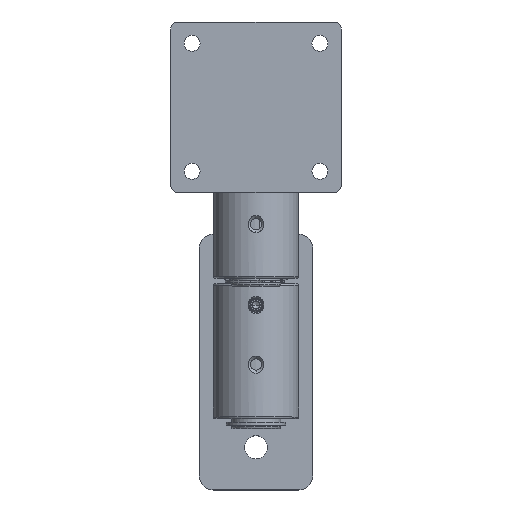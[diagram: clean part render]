
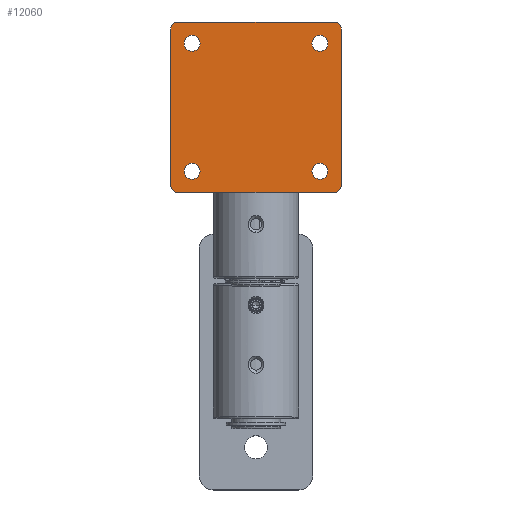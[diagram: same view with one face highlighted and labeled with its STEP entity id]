
A CAD part, top view. The second image highlights one B-rep face of the part: STEP entity #12060.
In plain terms, the highlighted planar face has unit normal (0, 0, 1) as drawn and (0, 0, -1) by its records, which use the part's own axes.
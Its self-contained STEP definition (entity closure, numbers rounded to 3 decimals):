
#248 = AXIS2_PLACEMENT_3D ( 'NONE', #10722, #5095, #9851 ) ;
#282 = CARTESIAN_POINT ( 'NONE',  ( 32.147, 28.575, -6.35 ) ) ;
#495 = VECTOR ( 'NONE', #11481, 1000. ) ;
#535 = CARTESIAN_POINT ( 'NONE',  ( 25.003, -28.575, -6.35 ) ) ;
#567 = CIRCLE ( 'NONE', #9783, 3.572 ) ;
#675 = CARTESIAN_POINT ( 'NONE',  ( 34.925, 38.1, -6.35 ) ) ;
#695 = AXIS2_PLACEMENT_3D ( 'NONE', #10409, #1809, #5640 ) ;
#785 = VERTEX_POINT ( 'NONE', #282 ) ;
#1027 = VERTEX_POINT ( 'NONE', #8293 ) ;
#1029 = AXIS2_PLACEMENT_3D ( 'NONE', #11527, #9528, #3945 ) ;
#1124 = DIRECTION ( 'NONE',  ( 1., 0., 0. ) ) ;
#1181 = CARTESIAN_POINT ( 'NONE',  ( -38.1, 38.1, -6.35 ) ) ;
#1208 = CARTESIAN_POINT ( 'NONE',  ( -34.925, 38.1, -6.35 ) ) ;
#1222 = DIRECTION ( 'NONE',  ( -1., 0., 0. ) ) ;
#1325 = PLANE ( 'NONE',  #248 ) ;
#1459 = VERTEX_POINT ( 'NONE', #10289 ) ;
#1620 = EDGE_CURVE ( 'NONE', #3955, #9064, #2231, .T. ) ;
#1764 = EDGE_CURVE ( 'NONE', #6491, #5849, #11735, .T. ) ;
#1809 = DIRECTION ( 'NONE',  ( 0., 0., 1. ) ) ;
#1867 = EDGE_LOOP ( 'NONE', ( #6929, #6290 ) ) ;
#1919 = LINE ( 'NONE', #1181, #11890 ) ;
#2120 = CARTESIAN_POINT ( 'NONE',  ( -38.1, -34.925, -6.35 ) ) ;
#2202 = CARTESIAN_POINT ( 'NONE',  ( 28.575, 28.575, -6.35 ) ) ;
#2231 = CIRCLE ( 'NONE', #1029, 3.572 ) ;
#2292 = ORIENTED_EDGE ( 'NONE', *, *, #6668, .F. ) ;
#2579 = DIRECTION ( 'NONE',  ( 0., 0., 1. ) ) ;
#2633 = CIRCLE ( 'NONE', #6853, 3.572 ) ;
#2678 = CIRCLE ( 'NONE', #9705, 3.175 ) ;
#2838 = AXIS2_PLACEMENT_3D ( 'NONE', #12188, #2579, #9235 ) ;
#3026 = CARTESIAN_POINT ( 'NONE',  ( -25.003, 28.575, -6.35 ) ) ;
#3034 = DIRECTION ( 'NONE',  ( 0., 0., -1. ) ) ;
#3184 = CARTESIAN_POINT ( 'NONE',  ( 32.147, -28.575, -6.35 ) ) ;
#3705 = EDGE_CURVE ( 'NONE', #785, #8225, #567, .T. ) ;
#3787 = DIRECTION ( 'NONE',  ( 1., 0., 0. ) ) ;
#3828 = CARTESIAN_POINT ( 'NONE',  ( -38.1, -38.1, -6.35 ) ) ;
#3843 = EDGE_CURVE ( 'NONE', #9064, #3955, #8634, .T. ) ;
#3937 = VERTEX_POINT ( 'NONE', #9181 ) ;
#3945 = DIRECTION ( 'NONE',  ( 1., 0., 0. ) ) ;
#3955 = VERTEX_POINT ( 'NONE', #3026 ) ;
#4058 = VECTOR ( 'NONE', #4432, 1000. ) ;
#4157 = DIRECTION ( 'NONE',  ( 0., 0., 1. ) ) ;
#4279 = DIRECTION ( 'NONE',  ( 0., 0., -1. ) ) ;
#4381 = LINE ( 'NONE', #9392, #4058 ) ;
#4432 = DIRECTION ( 'NONE',  ( 1., 0., 0. ) ) ;
#4602 = ORIENTED_EDGE ( 'NONE', *, *, #6920, .T. ) ;
#4666 = AXIS2_PLACEMENT_3D ( 'NONE', #6680, #7505, #3787 ) ;
#4699 = VERTEX_POINT ( 'NONE', #675 ) ;
#4709 = EDGE_CURVE ( 'NONE', #1459, #1027, #5554, .T. ) ;
#4734 = CARTESIAN_POINT ( 'NONE',  ( -34.925, -38.1, -6.35 ) ) ;
#4741 = DIRECTION ( 'NONE',  ( 0., 1., 0. ) ) ;
#4884 = ORIENTED_EDGE ( 'NONE', *, *, #9901, .T. ) ;
#4987 = CARTESIAN_POINT ( 'NONE',  ( -32.147, 28.575, -6.35 ) ) ;
#5006 = ORIENTED_EDGE ( 'NONE', *, *, #9496, .F. ) ;
#5071 = CIRCLE ( 'NONE', #11676, 3.175 ) ;
#5095 = DIRECTION ( 'NONE',  ( 0., 0., -1. ) ) ;
#5126 = ORIENTED_EDGE ( 'NONE', *, *, #9732, .T. ) ;
#5432 = ORIENTED_EDGE ( 'NONE', *, *, #6060, .T. ) ;
#5524 = VERTEX_POINT ( 'NONE', #535 ) ;
#5554 = LINE ( 'NONE', #10509, #10074 ) ;
#5640 = DIRECTION ( 'NONE',  ( 1., 0., 0. ) ) ;
#5648 = AXIS2_PLACEMENT_3D ( 'NONE', #10344, #8280, #11097 ) ;
#5795 = DIRECTION ( 'NONE',  ( 0., 0., 1. ) ) ;
#5849 = VERTEX_POINT ( 'NONE', #1208 ) ;
#5901 = FACE_OUTER_BOUND ( 'NONE', #9337, .T. ) ;
#5957 = FACE_BOUND ( 'NONE', #6786, .T. ) ;
#6060 = EDGE_CURVE ( 'NONE', #3937, #6488, #12255, .T. ) ;
#6290 = ORIENTED_EDGE ( 'NONE', *, *, #3843, .T. ) ;
#6325 = AXIS2_PLACEMENT_3D ( 'NONE', #10834, #8899, #9970 ) ;
#6488 = VERTEX_POINT ( 'NONE', #10776 ) ;
#6491 = VERTEX_POINT ( 'NONE', #11787 ) ;
#6567 = ORIENTED_EDGE ( 'NONE', *, *, #4709, .F. ) ;
#6607 = VERTEX_POINT ( 'NONE', #2120 ) ;
#6668 = EDGE_CURVE ( 'NONE', #9008, #6751, #4381, .T. ) ;
#6680 = CARTESIAN_POINT ( 'NONE',  ( 28.575, -28.575, -6.35 ) ) ;
#6751 = VERTEX_POINT ( 'NONE', #11202 ) ;
#6786 = EDGE_LOOP ( 'NONE', ( #8023, #11018 ) ) ;
#6853 = AXIS2_PLACEMENT_3D ( 'NONE', #7744, #5795, #11555 ) ;
#6866 = EDGE_LOOP ( 'NONE', ( #5432, #4884 ) ) ;
#6920 = EDGE_CURVE ( 'NONE', #9008, #6607, #5071, .T. ) ;
#6929 = ORIENTED_EDGE ( 'NONE', *, *, #1620, .T. ) ;
#7067 = CIRCLE ( 'NONE', #7654, 3.175 ) ;
#7084 = VERTEX_POINT ( 'NONE', #3184 ) ;
#7206 = ORIENTED_EDGE ( 'NONE', *, *, #7314, .T. ) ;
#7302 = CIRCLE ( 'NONE', #695, 3.572 ) ;
#7314 = EDGE_CURVE ( 'NONE', #5524, #7084, #2633, .T. ) ;
#7502 = CIRCLE ( 'NONE', #8481, 3.572 ) ;
#7505 = DIRECTION ( 'NONE',  ( 0., 0., 1. ) ) ;
#7581 = EDGE_CURVE ( 'NONE', #1459, #6751, #7067, .T. ) ;
#7633 = CARTESIAN_POINT ( 'NONE',  ( -34.925, -34.925, -6.35 ) ) ;
#7654 = AXIS2_PLACEMENT_3D ( 'NONE', #8001, #3034, #1222 ) ;
#7744 = CARTESIAN_POINT ( 'NONE',  ( 28.575, -28.575, -6.35 ) ) ;
#7828 = DIRECTION ( 'NONE',  ( 0., 0., 1. ) ) ;
#7845 = FACE_BOUND ( 'NONE', #11627, .T. ) ;
#7916 = FACE_BOUND ( 'NONE', #1867, .T. ) ;
#8001 = CARTESIAN_POINT ( 'NONE',  ( 34.925, -34.925, -6.35 ) ) ;
#8023 = ORIENTED_EDGE ( 'NONE', *, *, #3705, .T. ) ;
#8225 = VERTEX_POINT ( 'NONE', #8324 ) ;
#8280 = DIRECTION ( 'NONE',  ( 0., 0., 1. ) ) ;
#8293 = CARTESIAN_POINT ( 'NONE',  ( 38.1, 34.925, -6.35 ) ) ;
#8324 = CARTESIAN_POINT ( 'NONE',  ( 25.003, 28.575, -6.35 ) ) ;
#8469 = ORIENTED_EDGE ( 'NONE', *, *, #8831, .T. ) ;
#8481 = AXIS2_PLACEMENT_3D ( 'NONE', #2202, #4157, #9936 ) ;
#8529 = EDGE_CURVE ( 'NONE', #4699, #5849, #1919, .T. ) ;
#8595 = LINE ( 'NONE', #3828, #495 ) ;
#8634 = CIRCLE ( 'NONE', #2838, 3.572 ) ;
#8699 = CARTESIAN_POINT ( 'NONE',  ( 28.575, 28.575, -6.35 ) ) ;
#8831 = EDGE_CURVE ( 'NONE', #7084, #5524, #11467, .T. ) ;
#8899 = DIRECTION ( 'NONE',  ( 0., 0., -1. ) ) ;
#9008 = VERTEX_POINT ( 'NONE', #4734 ) ;
#9030 = ORIENTED_EDGE ( 'NONE', *, *, #7581, .T. ) ;
#9064 = VERTEX_POINT ( 'NONE', #4987 ) ;
#9160 = DIRECTION ( 'NONE',  ( -1., 0., 0. ) ) ;
#9181 = CARTESIAN_POINT ( 'NONE',  ( -25.003, -28.575, -6.35 ) ) ;
#9235 = DIRECTION ( 'NONE',  ( 1., 0., 0. ) ) ;
#9337 = EDGE_LOOP ( 'NONE', ( #2292, #4602, #5006, #11547, #9664, #5126, #6567, #9030 ) ) ;
#9392 = CARTESIAN_POINT ( 'NONE',  ( 38.1, -38.1, -6.35 ) ) ;
#9496 = EDGE_CURVE ( 'NONE', #6491, #6607, #8595, .T. ) ;
#9528 = DIRECTION ( 'NONE',  ( 0., 0., 1. ) ) ;
#9585 = EDGE_CURVE ( 'NONE', #8225, #785, #7502, .T. ) ;
#9664 = ORIENTED_EDGE ( 'NONE', *, *, #8529, .F. ) ;
#9705 = AXIS2_PLACEMENT_3D ( 'NONE', #12110, #4279, #9160 ) ;
#9732 = EDGE_CURVE ( 'NONE', #4699, #1027, #2678, .T. ) ;
#9783 = AXIS2_PLACEMENT_3D ( 'NONE', #8699, #7828, #1124 ) ;
#9851 = DIRECTION ( 'NONE',  ( -1., 0., 0. ) ) ;
#9901 = EDGE_CURVE ( 'NONE', #6488, #3937, #7302, .T. ) ;
#9936 = DIRECTION ( 'NONE',  ( 1., 0., 0. ) ) ;
#9970 = DIRECTION ( 'NONE',  ( -1., 0., 0. ) ) ;
#10017 = DIRECTION ( 'NONE',  ( -1., 0., 0. ) ) ;
#10074 = VECTOR ( 'NONE', #4741, 1000. ) ;
#10289 = CARTESIAN_POINT ( 'NONE',  ( 38.1, -34.925, -6.35 ) ) ;
#10344 = CARTESIAN_POINT ( 'NONE',  ( -28.575, -28.575, -6.35 ) ) ;
#10409 = CARTESIAN_POINT ( 'NONE',  ( -28.575, -28.575, -6.35 ) ) ;
#10509 = CARTESIAN_POINT ( 'NONE',  ( 38.1, 38.1, -6.35 ) ) ;
#10722 = CARTESIAN_POINT ( 'NONE',  ( 0., 0., -6.35 ) ) ;
#10776 = CARTESIAN_POINT ( 'NONE',  ( -32.147, -28.575, -6.35 ) ) ;
#10834 = CARTESIAN_POINT ( 'NONE',  ( -34.925, 34.925, -6.35 ) ) ;
#11018 = ORIENTED_EDGE ( 'NONE', *, *, #9585, .T. ) ;
#11097 = DIRECTION ( 'NONE',  ( 1., 0., 0. ) ) ;
#11202 = CARTESIAN_POINT ( 'NONE',  ( 34.925, -38.1, -6.35 ) ) ;
#11443 = DIRECTION ( 'NONE',  ( -1., 0., 0. ) ) ;
#11467 = CIRCLE ( 'NONE', #4666, 3.572 ) ;
#11481 = DIRECTION ( 'NONE',  ( 0., -1., 0. ) ) ;
#11513 = DIRECTION ( 'NONE',  ( 0., 0., -1. ) ) ;
#11527 = CARTESIAN_POINT ( 'NONE',  ( -28.575, 28.575, -6.35 ) ) ;
#11547 = ORIENTED_EDGE ( 'NONE', *, *, #1764, .T. ) ;
#11555 = DIRECTION ( 'NONE',  ( 1., 0., 0. ) ) ;
#11627 = EDGE_LOOP ( 'NONE', ( #8469, #7206 ) ) ;
#11676 = AXIS2_PLACEMENT_3D ( 'NONE', #7633, #11513, #11443 ) ;
#11735 = CIRCLE ( 'NONE', #6325, 3.175 ) ;
#11787 = CARTESIAN_POINT ( 'NONE',  ( -38.1, 34.925, -6.35 ) ) ;
#11795 = FACE_BOUND ( 'NONE', #6866, .T. ) ;
#11890 = VECTOR ( 'NONE', #10017, 1000. ) ;
#12060 = ADVANCED_FACE ( 'NONE', ( #7916, #5957, #7845, #11795, #5901 ), #1325, .T. ) ;
#12110 = CARTESIAN_POINT ( 'NONE',  ( 34.925, 34.925, -6.35 ) ) ;
#12188 = CARTESIAN_POINT ( 'NONE',  ( -28.575, 28.575, -6.35 ) ) ;
#12255 = CIRCLE ( 'NONE', #5648, 3.572 ) ;
